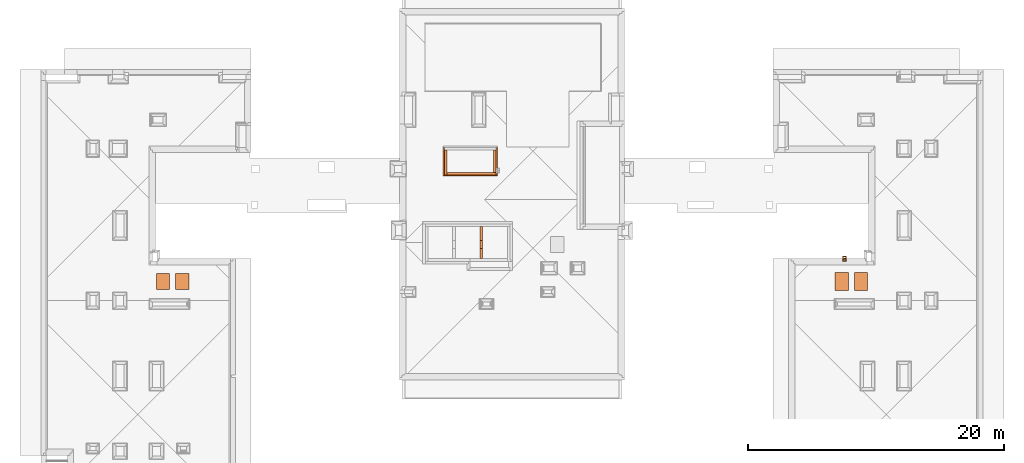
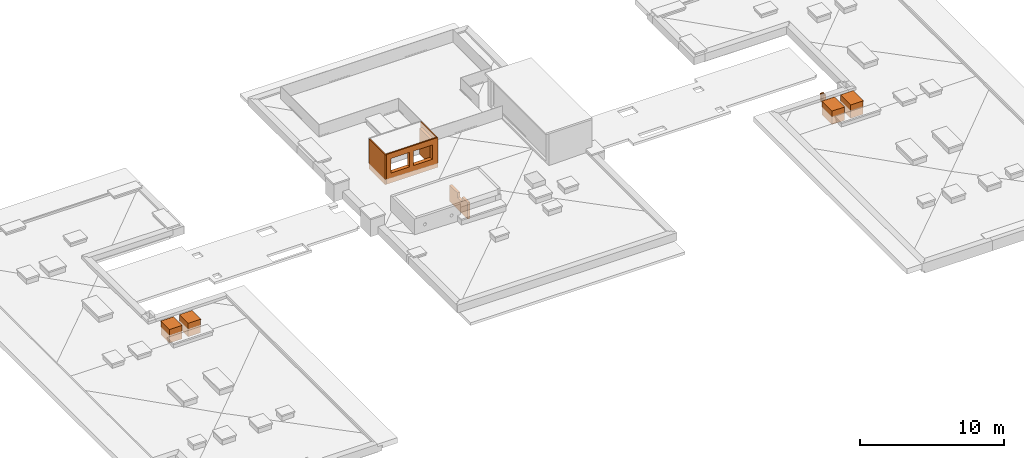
# One storey, part 6 of 16: 10 proxies, 3 openings.
"""IFC2X3 building model written with IfcOpenShell, lengths in millimetres."""

from ifc_helpers import new_model, entity, si_unit, converted_unit, derived_unit, money_unit, direction, frame, origin_with_axes, origin_2d_with_axis, place, context, subcontext, project, spatial, rectangle, extrude, faceted_brep, source, transform, mapped, material, material_list, type_object, element, save


model = new_model("IFC2X3")

# Units and contexts
model_context = context("Model", 3, precision=0.01, world=origin_with_axes(), true_north=direction((0.34421633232, 0.938890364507)))
body_context = subcontext(model_context, "Body", "Model", "MODEL_VIEW")
ifc_project = project(units=[si_unit("LENGTHUNIT", "METRE", prefix="MILLI"), si_unit("AREAUNIT", "SQUARE_METRE"), si_unit("VOLUMEUNIT", "CUBIC_METRE"), converted_unit("PLANEANGLEUNIT", "DEGREE", entity("IfcPlaneAngleMeasure", 0.0174532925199), si_unit("PLANEANGLEUNIT", "RADIAN"), dimensions=[0, 0, 0, 0, 0, 0, 0]), si_unit("SOLIDANGLEUNIT", "STERADIAN"), money_unit("USD"), converted_unit("TIMEUNIT", "Year", entity("IfcTimeMeasure", 31556926.0), si_unit("TIMEUNIT", "SECOND"), dimensions=[0, 0, 1, 0, 0, 0, 0]), si_unit("MASSUNIT", "GRAM", prefix="KILO"), si_unit("THERMODYNAMICTEMPERATUREUNIT", "DEGREE_CELSIUS"), si_unit("LUMINOUSINTENSITYUNIT", "LUMEN"), si_unit("ENERGYUNIT", "JOULE", prefix="MEGA"), derived_unit("THERMALCONDUCTANCEUNIT", [(si_unit("POWERUNIT", "WATT"), 1), (si_unit("LENGTHUNIT", "METRE"), -1), (si_unit("THERMODYNAMICTEMPERATUREUNIT", "KELVIN"), -1)]), derived_unit("SPECIFICHEATCAPACITYUNIT", [(si_unit("ENERGYUNIT", "JOULE"), 1), (si_unit("MASSUNIT", "GRAM", prefix="KILO"), -1), (si_unit("THERMODYNAMICTEMPERATUREUNIT", "KELVIN"), -1)]), derived_unit("MASSDENSITYUNIT", [(si_unit("MASSUNIT", "GRAM", prefix="KILO"), 1), (si_unit("VOLUMEUNIT", "CUBIC_METRE"), -1)])], contexts=[model_context])

# Site, building, storey
site_placement = place(None, origin_with_axes())
site = spatial("IfcSite", under=ifc_project, at=site_placement, Name="USTRONIE MORSKIE", CompositionType="ELEMENT")
building_placement = place(site_placement, origin_with_axes())
building = spatial("IfcBuilding", under=site, at=building_placement, Name="Budynek", CompositionType="ELEMENT")
storey_placement = place(building_placement, frame((0.0, 0.0, 19000.0), z_axis=(0.0, 0.0, 1.0), x_axis=(1.0, 0.0, 0.0)))
storey = spatial("IfcBuildingStorey", under=building, at=storey_placement, Name="DACH", CompositionType="ELEMENT", Elevation=19000.0)

# Proxy, openings
ifc_material_1 = material(Name="Płyty styropianowe twarde")
ifc_material_2 = material(Name="Beton konstrukcyjny B25")
ifc_material_list_1 = material_list([ifc_material_1, ifc_material_2])
building_element_proxy_type_1 = type_object("IfcBuildingElementProxyType", Name="20+10 300", PredefinedType="NOTDEFINED")
proxy_1_placement = place(storey_placement, frame((386467.920919, 736851.199036, -160.0), z_axis=(0.0, 0.0, 1.0), x_axis=(-1.0, 0.0, 0.0)))
proxy_1 = element("IfcBuildingElementProxy", 1, at=proxy_1_placement, inside=storey, type_object=building_element_proxy_type_1, material=ifc_material_list_1, Name="Œciana-007", context=body_context, shape_type="Brep", body=[
    faceted_brep([(-200.000006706, 200.0, 5.0), (-200.000006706, 100.0, 5.0), (-200.000006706, 100.0, 2540.0), (-200.000006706, 200.0, 2540.0), (3930.0, 100.0, 5.0), (3930.0, 200.000000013, 5.0), (3930.0, 100.0, 2540.0), (3930.0, 200.000006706, 2540.0)], [[[0, 1, 2, 3]], [[4, 1, 0, 5]], [[1, 4, 6, 2]], [[2, 6, 7, 3]], [[5, 0, 3, 7]], [[4, 5, 7, 6]]]),
    faceted_brep([(3730.0, -100.0, 0.0), (3730.0, -100.0, 2184.98704164), (-100.0, -100.0, 2184.98704164), (-100.0, -100.0, 0.0), (3730.0, 100.0, 0.0), (3730.0, 99.9999999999, 2184.98704164), (-100.0, 99.9999999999, 2184.98704164), (-100.0, 100.0, 0.0)], [[[0, 1, 2, 3]], [[4, 5, 1, 0]], [[5, 6, 2, 1]], [[3, 2, 6, 7]], [[4, 0, 3, 7]], [[7, 6, 5, 4]]]),
])
opening_1_placement = place(proxy_1_placement, frame((1000.0, 0.0, 840.0), z_axis=(0.0, 0.0, 1.0), x_axis=(1.0, 0.0, 0.0)))
element("IfcOpeningElement", 2, at=opening_1_placement, cuts=proxy_1, Name="Okna-006", context=body_context, shape_type="SweptSolid", body=[
    extrude(rectangle(XDim=1500.0, YDim=1225.14036506, at=origin_2d_with_axis()), frame((0.0, -100.0, 612.570182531), z_axis=(0.0, 1.0, 0.0), x_axis=(1.0, 0.0, 0.0)), (0.0, 0.0, -1.0), 300.0),
    extrude(rectangle(XDim=1500.0, YDim=1225.14036506, at=origin_2d_with_axis()), frame((0.0, -100.0, 612.570182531), z_axis=(0.0, -1.0, 0.0), x_axis=(1.0, 0.0, 0.0)), (0.0, 0.0, -1.0), 300.0),
])
opening_2_placement = place(proxy_1_placement, frame((2830.0, 0.0, 840.0), z_axis=(0.0, 0.0, 1.0), x_axis=(1.0, 0.0, 0.0)))
element("IfcOpeningElement", 3, at=opening_2_placement, cuts=proxy_1, Name="Okna-006", context=body_context, shape_type="SweptSolid", body=[
    extrude(rectangle(XDim=1500.0, YDim=1225.14036506, at=origin_2d_with_axis()), frame((0.0, -100.0, 612.570182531), z_axis=(0.0, 1.0, 0.0), x_axis=(1.0, 0.0, 0.0)), (0.0, 0.0, -1.0), 300.0),
    extrude(rectangle(XDim=1500.0, YDim=1225.14036506, at=origin_2d_with_axis()), frame((0.0, -100.0, 612.570182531), z_axis=(0.0, -1.0, 0.0), x_axis=(1.0, 0.0, 0.0)), (0.0, 0.0, -1.0), 300.0),
])

# Proxies
ifc_material_list_2 = material_list([ifc_material_2, ifc_material_1])
proxy_2_placement = place(storey_placement, frame((382637.920919, 738801.199036, -160.0), z_axis=(0.0, 0.0, 1.0), x_axis=(0.0, -1.0, 0.0)))
element("IfcBuildingElementProxy", 4, at=proxy_2_placement, inside=storey, type_object=building_element_proxy_type_1, material=ifc_material_list_2, Name="Œciana-007", context=body_context, shape_type="Brep", body=[
    faceted_brep([(100.0, -100.0, 2184.98704164), (100.0, 100.0, 2184.98704164), (100.0, 100.0, 0.0), (100.0, -100.0, 0.0), (2050.0, 100.0, 2184.98704164), (2050.0, -100.0, 2184.98704164), (2050.0, 100.0, 0.0), (2050.0, -100.0, 0.0)], [[[0, 1, 2, 3]], [[4, 1, 0, 5]], [[1, 4, 6, 2]], [[2, 6, 7, 3]], [[5, 0, 3, 7]], [[4, 5, 7, 6]]]),
    faceted_brep([(2150.00000671, -100.0, 5.0), (-100.0, -100.0, 5.0), (-100.0, -100.0, 2540.0), (2150.00000671, -100.0, 2540.0), (-100.0, -200.0, 5.0), (2150.00000671, -200.0, 5.0), (-100.0, -200.0, 2540.0), (2150.00000671, -200.0, 2540.0)], [[[0, 1, 2, 3]], [[4, 1, 0, 5]], [[1, 4, 6, 2]], [[6, 7, 3, 2]], [[5, 0, 3, 7]], [[4, 5, 7, 6]]]),
])
proxy_3_placement = place(storey_placement, frame((386467.920919, 738801.199036, -160.0), z_axis=(0.0, 0.0, 1.0), x_axis=(0.0, -1.0, 0.0)))
element("IfcBuildingElementProxy", 5, at=proxy_3_placement, inside=storey, type_object=building_element_proxy_type_1, material=ifc_material_list_1, Name="Œciana-008", context=body_context, shape_type="Brep", body=[
    faceted_brep([(1875.0, 200.0, 5.0), (-100.0, 200.0, 5.0), (-100.0, 200.0, 2540.0), (2050.0, 200.000006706, 2540.0), (2050.0, 200.0, 5.0), (2050.0, 100.0, 5.0), (-100.0, 100.0, 5.0), (-100.0, 100.0, 2540.0), (2050.0, 100.0, 2540.0)], [[[0, 1, 2, 3, 4]], [[5, 6, 1, 0, 4]], [[1, 6, 7, 2]], [[7, 8, 3, 2]], [[5, 4, 3, 8]], [[5, 8, 7, 6]]]),
    faceted_brep([(100.0, -100.0, 2184.98704164), (100.0, 100.0, 2184.98704164), (100.0, 100.0, 0.0), (100.0, -100.0, 0.0), (1850.0, 100.0, 2184.98704164), (1850.0, -100.0, 2184.98704164), (1850.0, 100.0, 0.0), (1850.0, -100.0, 0.0)], [[[0, 1, 2, 3]], [[4, 1, 0, 5]], [[1, 4, 6, 2]], [[2, 6, 7, 3]], [[5, 0, 3, 7]], [[4, 5, 7, 6]]]),
])

# Proxy, opening
building_element_proxy_type_2 = type_object("IfcBuildingElementProxyType", Name="Beton konstrukcyjny B25 200", PredefinedType="NOTDEFINED")
proxy_4_placement = place(storey_placement, frame((385417.920919, 730091.199025, -360.0), z_axis=(0.0, 0.0, 1.0), x_axis=(0.0, 1.0, 0.0)))
proxy_4 = element("IfcBuildingElementProxy", 6, at=proxy_4_placement, inside=storey, type_object=building_element_proxy_type_2, material=ifc_material_2, Name="SW-01", context=body_context, shape_type="Brep", body=[
    faceted_brep([(100.0, -100.0, 1570.00001229), (100.0, -100.0, 200.0), (2610.00001118, -100.0, 200.0), (2610.00001118, -100.0, 1570.00001229), (100.0, 100.0, 1570.00001229), (100.0, 100.0, 200.0), (2610.00001118, 100.0, 200.0), (2610.00001118, 100.0, 1570.00001229)], [[[0, 1, 2, 3]], [[4, 5, 1, 0]], [[5, 6, 2, 1]], [[3, 2, 6, 7]], [[0, 3, 7, 4]], [[7, 6, 5, 4]]]),
])
opening_3_placement = place(proxy_4_placement, frame((1210.00001118, 0.0, 1170.00001229), z_axis=(0.0, 0.0, 1.0), x_axis=(1.0, 0.0, 0.0)))
element("IfcOpeningElement", 7, at=opening_3_placement, cuts=proxy_4, Name="Okna-005", context=body_context, shape_type="SweptSolid", body=[
    extrude(rectangle(XDim=600.0, YDim=400.0, at=origin_2d_with_axis()), frame((0.0, -100.0, 200.0), z_axis=(0.0, 1.0, 0.0), x_axis=(1.0, 0.0, 0.0)), (0.0, 0.0, -1.0), 200.0),
    extrude(rectangle(XDim=600.0, YDim=400.0, at=origin_2d_with_axis()), frame((0.0, -100.0, 200.0), z_axis=(0.0, -1.0, 0.0), x_axis=(1.0, 0.0, 0.0)), (0.0, 0.0, -1.0), 200.0),
])

# Proxies
building_element_proxy_type_3 = type_object("IfcBuildingElementProxyType", Name="Okno połaciowe 23", PredefinedType="NOTDEFINED")
shared_shape_1 = source(origin_with_axes(), body_context, "Body", "Brep", [
    faceted_brep([(488.0, 0.0, -100.0), (-488.0, 0.0, -100.0), (-488.0, 12.0, -100.0), (488.0, 12.0, -100.0), (488.0, 0.0, 0.0), (-488.0, 0.0, 0.0), (-488.0, 12.0, 0.0), (488.0, 12.0, 0.0)], [[[0, 1, 2, 3]], [[4, 5, 1, 0]], [[1, 5, 6, 2]], [[3, 2, 6, 7]], [[0, 3, 7, 4]], [[7, 6, 5, 4]]]),
    faceted_brep([(488.0, 1200.0, 0.0), (-488.0, 1200.0, 0.0), (-488.0, 1188.0, 0.0), (488.0, 1188.0, 0.0), (488.0, 1200.0, -100.0), (-488.0, 1200.0, -100.0), (-488.0, 1188.0, -100.0), (488.0, 1188.0, -100.0)], [[[0, 1, 2, 3]], [[4, 5, 1, 0]], [[1, 5, 6, 2]], [[3, 2, 6, 7]], [[0, 3, 7, 4]], [[7, 6, 5, 4]]]),
    faceted_brep([(500.0, 0.0, -100.0), (488.0, 0.0, -100.0), (488.0, 1200.0, -100.0), (500.0, 1200.0, -100.0), (500.0, 0.0, 0.0), (488.0, 0.0, 0.0), (488.0, 1200.0, 0.0), (500.0, 1200.0, 0.0)], [[[0, 1, 2, 3]], [[4, 5, 1, 0]], [[1, 5, 6, 2]], [[3, 2, 6, 7]], [[0, 3, 7, 4]], [[7, 6, 5, 4]]]),
    faceted_brep([(-488.0, 0.0, -100.0), (-500.0, 0.0, -100.0), (-500.0, 1200.0, -100.0), (-488.0, 1200.0, -100.0), (-488.0, 0.0, 0.0), (-500.0, 0.0, 0.0), (-500.0, 1200.0, 0.0), (-488.0, 1200.0, 0.0)], [[[0, 1, 2, 3]], [[4, 5, 1, 0]], [[1, 5, 6, 2]], [[3, 2, 6, 7]], [[0, 3, 7, 4]], [[7, 6, 5, 4]]]),
    faceted_brep([(500.0, 0.0, 0.0), (500.0, 0.0, 1000.0), (-500.0, 0.0, 1000.0), (-500.0, 0.0, 0.0), (500.0, 1200.0, 0.0), (500.0, 1200.0, 1000.0), (-500.0, 1200.0, 1000.0), (450.0, 50.0, 1000.0), (-450.0, 50.0, 1000.0), (-450.0, 1150.0, 1000.0), (450.0, 1150.0, 1000.0), (-500.0, 1200.0, 0.0), (450.0, 50.0, 0.0), (450.0, 1150.0, 0.0), (-450.0, 1150.0, 0.0), (-450.0, 50.0, 0.0)], [[[0, 1, 2, 3]], [[4, 5, 1, 0]], [[1, 5, 6, 2], [7, 8, 9, 10]], [[3, 2, 6, 11]], [[0, 3, 11, 4], [12, 13, 14, 15]], [[11, 6, 5, 4]], [[15, 8, 7, 12]], [[14, 9, 8, 15]], [[13, 10, 9, 14]], [[12, 7, 10, 13]]]),
    faceted_brep([(512.5, -12.5, 1000.0), (512.5, -12.5, 1025.0), (-512.5, -12.5, 1025.0), (-512.5, -12.5, 1000.0), (512.5, 1212.5, 1000.0), (512.5, 1212.5, 1025.0), (-512.5, 1212.5, 1025.0), (450.0, 50.0, 1025.0), (-450.0, 50.0, 1025.0), (-450.0, 1150.0, 1025.0), (450.0, 1150.0, 1025.0), (-512.5, 1212.5, 1000.0), (450.0, 50.0, 1000.0), (450.0, 1150.0, 1000.0), (-450.0, 1150.0, 1000.0), (-450.0, 50.0, 1000.0)], [[[0, 1, 2, 3]], [[4, 5, 1, 0]], [[1, 5, 6, 2], [7, 8, 9, 10]], [[3, 2, 6, 11]], [[0, 3, 11, 4], [12, 13, 14, 15]], [[11, 6, 5, 4]], [[15, 8, 7, 12]], [[14, 9, 8, 15]], [[13, 10, 9, 14]], [[12, 7, 10, 13]]]),
    faceted_brep([(512.5, -12.5, 1025.0), (512.5, -12.5, 1050.0), (-512.5, -12.5, 1050.0), (-512.5, -12.5, 1025.0), (512.5, 1212.5, 1025.0), (512.5, 1212.5, 1050.0), (-512.5, 1212.5, 1050.0), (500.0, 0.0, 1050.0), (-500.0, 0.0, 1050.0), (-500.0, 1200.0, 1050.0), (500.0, 1200.0, 1050.0), (-512.5, 1212.5, 1025.0), (500.0, 0.0, 1025.0), (500.0, 1200.0, 1025.0), (-500.0, 1200.0, 1025.0), (-500.0, 0.0, 1025.0)], [[[0, 1, 2, 3]], [[4, 5, 1, 0]], [[1, 5, 6, 2], [7, 8, 9, 10]], [[3, 2, 6, 11]], [[0, 3, 11, 4], [12, 13, 14, 15]], [[11, 6, 5, 4]], [[15, 8, 7, 12]], [[14, 9, 8, 15]], [[13, 10, 9, 14]], [[12, 7, 10, 13]]]),
    faceted_brep([(500.0, 0.0, 1025.0), (500.0, 0.0, 1050.0), (-500.0, 0.0, 1050.0), (-500.0, 0.0, 1025.0), (500.0, 1200.0, 1025.0), (500.0, 1200.0, 1050.0), (-500.0, 1200.0, 1050.0), (487.5, 12.5, 1050.0), (-487.5, 12.5, 1050.0), (-487.5, 1187.5, 1050.0), (487.5, 1187.5, 1050.0), (-500.0, 1200.0, 1025.0), (487.5, 12.5, 1025.0), (487.5, 1187.5, 1025.0), (-487.5, 1187.5, 1025.0), (-487.5, 12.5, 1025.0)], [[[0, 1, 2, 3]], [[4, 5, 1, 0]], [[1, 5, 6, 2], [7, 8, 9, 10]], [[3, 2, 6, 11]], [[0, 3, 11, 4], [12, 13, 14, 15]], [[11, 6, 5, 4]], [[15, 8, 7, 12]], [[14, 9, 8, 15]], [[13, 10, 9, 14]], [[12, 7, 10, 13]]]),
    faceted_brep([(487.5, 12.5, 1035.0), (487.5, 12.5, 1045.0), (-487.5, 12.5, 1045.0), (-487.5, 12.5, 1035.0), (487.5, 1187.5, 1035.0), (487.5, 1187.5, 1045.0), (-487.5, 1187.5, 1045.0), (-487.5, 1187.5, 1035.0)], [[[0, 1, 2, 3]], [[4, 5, 1, 0]], [[1, 5, 6, 2]], [[3, 2, 6, 7]], [[0, 3, 7, 4]], [[7, 6, 5, 4]]]),
])
for number, where, z_axis, x_axis, name in (
    (8, (360517.920919, 727801.199022, -260.0), (0.0, 0.0, 1.0), (1.0, 0.0, 0.0), "OB3"),
    (9, (362017.920919, 727801.199022, -260.0), (0.0, 0.0, 1.0), (1.0, 0.0, 0.0), "OB3"),
):
    element("IfcBuildingElementProxy", number, at=place(storey_placement, frame(where, z_axis=z_axis, x_axis=x_axis)), inside=storey, type_object=building_element_proxy_type_3, Name=name, context=body_context, shape_type="MappedRepresentation", body=[
        mapped(shared_shape_1, transform((0.0, 0.0, 0.0))),
    ])
shared_shape_2 = source(origin_with_axes(), body_context, "Body", "Brep", [
    faceted_brep([(-488.0, 0.0, -100.0), (-488.0, 12.0, -100.0), (488.0, 12.0, -100.0), (488.0, 0.0, -100.0), (-488.0, 0.0, 0.0), (-488.0, 12.0, 0.0), (488.0, 12.0, 0.0), (488.0, 0.0, 0.0)], [[[0, 1, 2, 3]], [[0, 4, 5, 1]], [[1, 5, 6, 2]], [[3, 2, 6, 7]], [[4, 0, 3, 7]], [[5, 4, 7, 6]]]),
    faceted_brep([(-488.0, 1400.0, 0.0), (-488.0, 1388.0, 0.0), (488.0, 1388.0, 0.0), (488.0, 1400.0, 0.0), (-488.0, 1400.0, -100.0), (-488.0, 1388.0, -100.0), (488.0, 1388.0, -100.0), (488.0, 1400.0, -100.0)], [[[0, 1, 2, 3]], [[0, 4, 5, 1]], [[1, 5, 6, 2]], [[3, 2, 6, 7]], [[4, 0, 3, 7]], [[5, 4, 7, 6]]]),
    faceted_brep([(-500.0, 0.0, -100.0), (-500.0, 1400.0, -100.0), (-488.0, 1400.0, -100.0), (-488.0, 0.0, -100.0), (-500.0, 0.0, 0.0), (-500.0, 1400.0, 0.0), (-488.0, 1400.0, 0.0), (-488.0, 0.0, 0.0)], [[[0, 1, 2, 3]], [[0, 4, 5, 1]], [[1, 5, 6, 2]], [[3, 2, 6, 7]], [[4, 0, 3, 7]], [[5, 4, 7, 6]]]),
    faceted_brep([(488.0, 0.0, -100.0), (488.0, 1400.0, -100.0), (500.0, 1400.0, -100.0), (500.0, 0.0, -100.0), (488.0, 0.0, 0.0), (488.0, 1400.0, 0.0), (500.0, 1400.0, 0.0), (500.0, 0.0, 0.0)], [[[0, 1, 2, 3]], [[0, 4, 5, 1]], [[1, 5, 6, 2]], [[3, 2, 6, 7]], [[4, 0, 3, 7]], [[5, 4, 7, 6]]]),
    faceted_brep([(-500.0, 0.0, 0.0), (500.0, 0.0, 0.0), (500.0, 0.0, 1000.0), (-500.0, 0.0, 1000.0), (-500.0, 1400.0, 0.0), (500.0, 1400.0, 0.0), (-450.0, 50.0, 0.0), (450.0, 50.0, 0.0), (450.0, 1350.0, 0.0), (-450.0, 1350.0, 0.0), (500.0, 1400.0, 1000.0), (-500.0, 1400.0, 1000.0), (-450.0, 50.0, 1000.0), (-450.0, 1350.0, 1000.0), (450.0, 1350.0, 1000.0), (450.0, 50.0, 1000.0)], [[[0, 1, 2, 3]], [[0, 4, 5, 1], [6, 7, 8, 9]], [[1, 5, 10, 2]], [[3, 2, 10, 11], [12, 13, 14, 15]], [[4, 0, 3, 11]], [[5, 4, 11, 10]], [[7, 6, 12, 15]], [[8, 7, 15, 14]], [[9, 8, 14, 13]], [[6, 9, 13, 12]]]),
    faceted_brep([(-512.5, -12.5, 1000.0), (512.5, -12.5, 1000.0), (512.5, -12.5, 1025.0), (-512.5, -12.5, 1025.0), (-512.5, 1412.5, 1000.0), (512.5, 1412.5, 1000.0), (-450.0, 50.0, 1000.0), (450.0, 50.0, 1000.0), (450.0, 1350.0, 1000.0), (-450.0, 1350.0, 1000.0), (512.5, 1412.5, 1025.0), (-512.5, 1412.5, 1025.0), (-450.0, 50.0, 1025.0), (-450.0, 1350.0, 1025.0), (450.0, 1350.0, 1025.0), (450.0, 50.0, 1025.0)], [[[0, 1, 2, 3]], [[0, 4, 5, 1], [6, 7, 8, 9]], [[1, 5, 10, 2]], [[3, 2, 10, 11], [12, 13, 14, 15]], [[4, 0, 3, 11]], [[5, 4, 11, 10]], [[7, 6, 12, 15]], [[8, 7, 15, 14]], [[9, 8, 14, 13]], [[6, 9, 13, 12]]]),
    faceted_brep([(-512.5, -12.5, 1025.0), (512.5, -12.5, 1025.0), (512.5, -12.5, 1050.0), (-512.5, -12.5, 1050.0), (-512.5, 1412.5, 1025.0), (512.5, 1412.5, 1025.0), (-500.0, 0.0, 1025.0), (500.0, 0.0, 1025.0), (500.0, 1400.0, 1025.0), (-500.0, 1400.0, 1025.0), (512.5, 1412.5, 1050.0), (-512.5, 1412.5, 1050.0), (-500.0, 0.0, 1050.0), (-500.0, 1400.0, 1050.0), (500.0, 1400.0, 1050.0), (500.0, 0.0, 1050.0)], [[[0, 1, 2, 3]], [[0, 4, 5, 1], [6, 7, 8, 9]], [[1, 5, 10, 2]], [[3, 2, 10, 11], [12, 13, 14, 15]], [[4, 0, 3, 11]], [[5, 4, 11, 10]], [[7, 6, 12, 15]], [[8, 7, 15, 14]], [[9, 8, 14, 13]], [[6, 9, 13, 12]]]),
    faceted_brep([(-500.0, 0.0, 1025.0), (500.0, 0.0, 1025.0), (500.0, 0.0, 1050.0), (-500.0, 0.0, 1050.0), (-500.0, 1400.0, 1025.0), (500.0, 1400.0, 1025.0), (-487.5, 12.5, 1025.0), (487.5, 12.5, 1025.0), (487.5, 1387.5, 1025.0), (-487.5, 1387.5, 1025.0), (500.0, 1400.0, 1050.0), (-500.0, 1400.0, 1050.0), (-487.5, 12.5, 1050.0), (-487.5, 1387.5, 1050.0), (487.5, 1387.5, 1050.0), (487.5, 12.5, 1050.0)], [[[0, 1, 2, 3]], [[0, 4, 5, 1], [6, 7, 8, 9]], [[1, 5, 10, 2]], [[3, 2, 10, 11], [12, 13, 14, 15]], [[4, 0, 3, 11]], [[5, 4, 11, 10]], [[7, 6, 12, 15]], [[8, 7, 15, 14]], [[9, 8, 14, 13]], [[6, 9, 13, 12]]]),
    faceted_brep([(-487.5, 12.5, 1035.0), (487.5, 12.5, 1035.0), (487.5, 12.5, 1045.0), (-487.5, 12.5, 1045.0), (-487.5, 1387.5, 1035.0), (487.5, 1387.5, 1035.0), (487.5, 1387.5, 1045.0), (-487.5, 1387.5, 1045.0)], [[[0, 1, 2, 3]], [[0, 4, 5, 1]], [[1, 5, 6, 2]], [[3, 2, 6, 7]], [[4, 0, 3, 7]], [[5, 4, 7, 6]]]),
])
for number, where, z_axis, x_axis, name in (
    (10, (415117.920919, 727701.198914, -260.0), (0.0, 0.0, 1.0), (1.0, 0.0, 0.0), "OB3"),
    (11, (413617.920919, 727701.198914, -260.0), (0.0, 0.0, 1.0), (1.0, 0.0, 0.0), "OB3"),
):
    element("IfcBuildingElementProxy", number, at=place(storey_placement, frame(where, z_axis=z_axis, x_axis=x_axis)), inside=storey, type_object=building_element_proxy_type_3, Name=name, context=body_context, shape_type="MappedRepresentation", body=[
        mapped(shared_shape_2, transform((0.0, 0.0, 0.0))),
    ])
building_element_proxy_type_4 = type_object("IfcBuildingElementProxyType", PredefinedType="NOTDEFINED")
shared_shape_3 = source(origin_with_axes(), body_context, "Body", "Brep", [
    faceted_brep([(0.0, 0.0, 0.0), (0.0, 0.0, 660.0), (-200.0, 0.0, 660.0), (-200.0, 0.0, 0.0), (0.0, 250.0, 0.0), (0.0, 250.0, 660.0), (-200.0, 250.0, 660.0), (-40.0, 210.0, 660.0), (-40.0, 40.0, 660.0), (-160.0, 40.0, 660.0), (-160.0, 210.0, 660.0), (-200.0, 250.0, 0.0), (-40.0, 210.0, 0.0), (-160.0, 210.0, 0.0), (-160.0, 40.0, 0.0), (-40.0, 40.0, 0.0)], [[[0, 1, 2, 3]], [[4, 5, 1, 0]], [[1, 5, 6, 2], [7, 8, 9, 10]], [[3, 2, 6, 11]], [[0, 3, 11, 4], [12, 13, 14, 15]], [[11, 6, 5, 4]], [[15, 8, 7, 12]], [[14, 9, 8, 15]], [[13, 10, 9, 14]], [[12, 7, 10, 13]]]),
])
for number, where, z_axis, x_axis, name in (
    (12, (413717.920919, 730001.198672, -189.999998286), (0.0, 0.0, 1.0), (0.0, -1.0, 0.0), "Obiekt-007"),
    (13, (413967.920919, 730401.198672, -189.999998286), (0.0, 0.0, 1.0), (0.0, 1.0, 0.0), "Obiekt-007"),
):
    element("IfcBuildingElementProxy", number, at=place(storey_placement, frame(where, z_axis=z_axis, x_axis=x_axis)), inside=storey, type_object=building_element_proxy_type_4, Name=name, context=body_context, shape_type="MappedRepresentation", body=[
        mapped(shared_shape_3, transform((0.0, 0.0, 0.0))),
    ])

save(model, "model.ifc")
